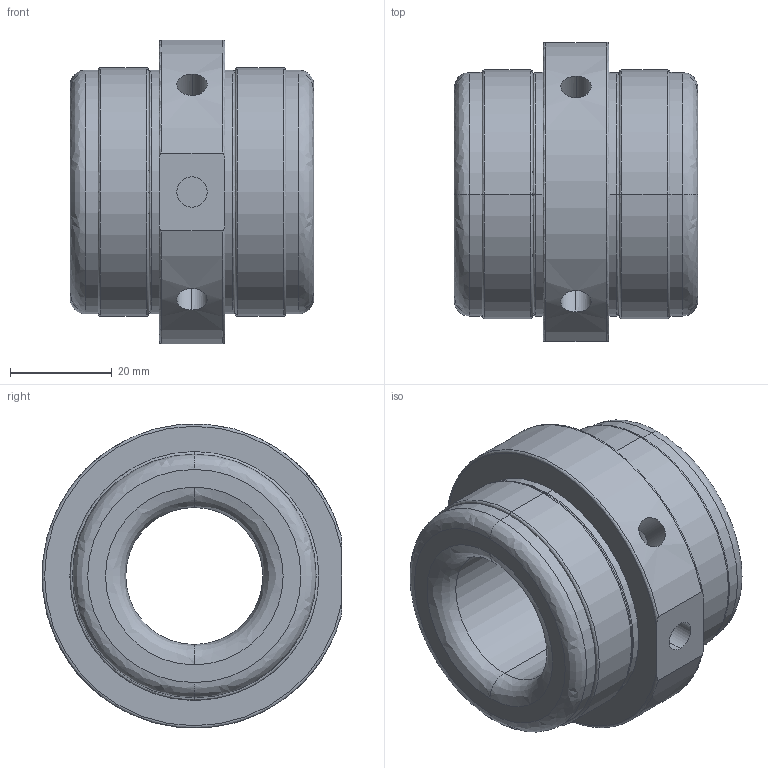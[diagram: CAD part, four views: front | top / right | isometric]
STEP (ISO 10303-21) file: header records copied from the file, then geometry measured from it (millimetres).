
FILE_DESCRIPTION( (''), '2;1');
FILE_NAME ('TGMX25.528.RBG030GCA_9146.stp','2015-03-30T14:00:56',(''),(''),'spGate 11.3.7','spGate','');
FILE_SCHEMA (('AUTOMOTIVE_DESIGN'));
Length unit declared in the file: millimetre
Bounding box: 48 x 58.91 x 59.82 mm (x, y, z)
Volume: 71507.5 mm3; surface area: 16822 mm2
Topology: 1 solids, 1 shells, 79 faces, 168 edges, 92 vertices
Faces by surface type: bspline 38, cylinder 33, plane 8
Entity records: 4217 total; most frequent: CARTESIAN_POINT 1449, ORIENTED_EDGE 320, COLOUR_RGB 240, PRESENTATION_STYLE_ASSIGNMENT 240, STYLED_ITEM 240, DIRECTION 238, EDGE_CURVE 160, DRAUGHTING_PRE_DEFINED_CURVE_FONT 160
